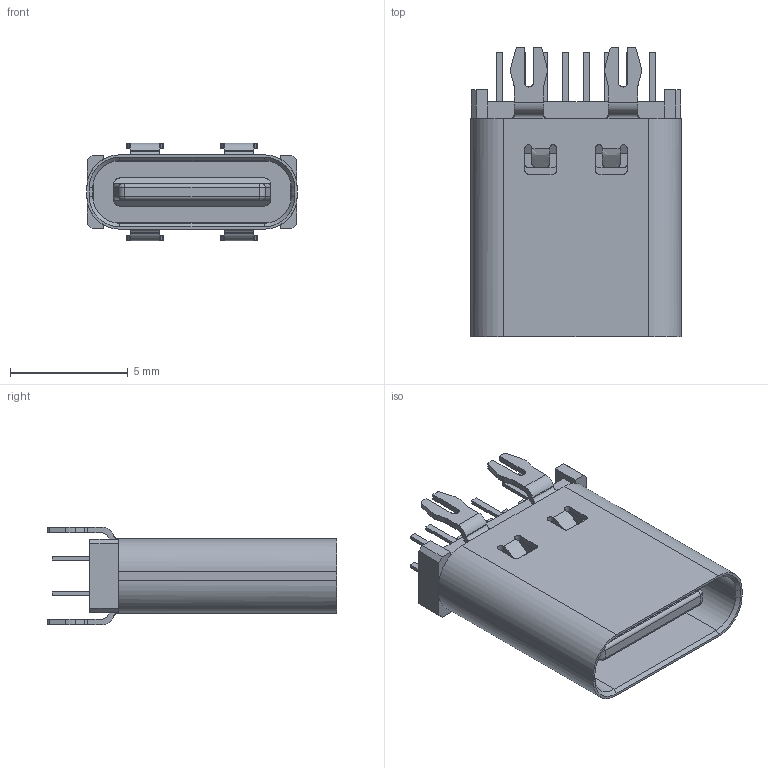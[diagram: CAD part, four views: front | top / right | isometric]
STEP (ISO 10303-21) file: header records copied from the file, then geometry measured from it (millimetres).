
FILE_DESCRIPTION((''),'2;1');
FILE_NAME('TYPE_C_180_SW0002','2023-11-08T',('Administrator'),(''),'PRO/ENGINEER BY PARAMETRIC TECHNOLOGY CORPORATION, 2011310','PRO/ENGINEER BY PARAMETRIC TECHNOLOGY CORPORATION, 2011310','');
FILE_SCHEMA(('CONFIG_CONTROL_DESIGN'));
Length unit declared in the file: millimetre
Products named in the file (1): TYPE_C_180_SW0002
Bounding box: 8.94 x 12.32 x 4.16 mm (x, y, z)
Volume: 178.2 mm3; surface area: 638.9 mm2
Topology: 1 solids, 1 shells, 398 faces, 1076 edges, 692 vertices
Faces by surface type: plane 246, cylinder 100, bspline 48, cone 4
Entity records: 14121 total; most frequent: CARTESIAN_POINT 4173, ORIENTED_EDGE 2152, DIRECTION 1924, EDGE_CURVE 1076, VECTOR 752, LINE 752, VERTEX_POINT 692, AXIS2_PLACEMENT_3D 586
